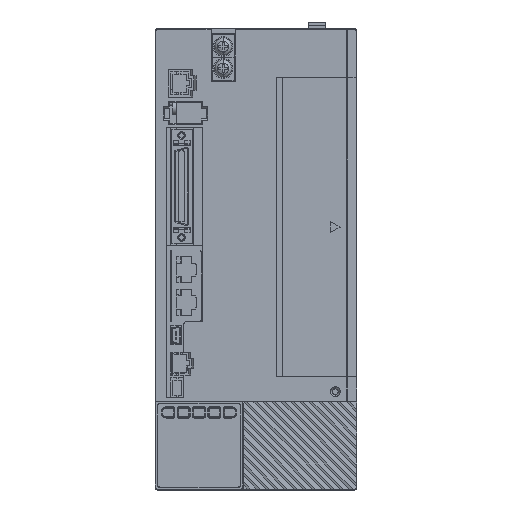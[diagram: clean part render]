
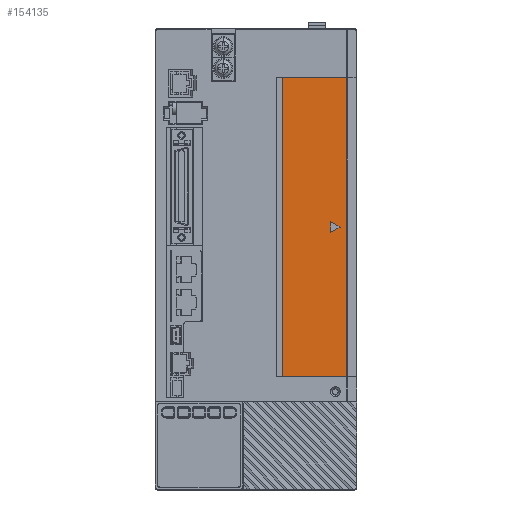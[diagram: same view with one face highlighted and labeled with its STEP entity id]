
A CAD part, top view. The second image highlights one B-rep face of the part: STEP entity #154135.
In plain terms, the highlighted planar face has unit normal (0, 0, 1).
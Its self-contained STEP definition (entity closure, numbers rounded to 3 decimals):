
#57332=DIRECTION('',(0.,-1.,0.));
#57333=VECTOR('',#57332,136.);
#57334=CARTESIAN_POINT('',(12.3,82.6,1.));
#57335=LINE('',#57334,#57333);
#57336=DIRECTION('',(1.,0.,0.));
#57337=VECTOR('',#57336,29.2);
#57338=CARTESIAN_POINT('',(12.3,82.6,1.));
#57339=LINE('',#57338,#57337);
#57340=DIRECTION('',(-1.,0.,0.));
#57341=VECTOR('',#57340,29.2);
#57342=CARTESIAN_POINT('',(41.5,-53.4,1.));
#57343=LINE('',#57342,#57341);
#57344=DIRECTION('',(-0.866,0.5,0.));
#57345=VECTOR('',#57344,5.);
#57346=CARTESIAN_POINT('',(38.35,14.6,1.));
#57347=LINE('',#57346,#57345);
#57348=DIRECTION('',(0.866,0.5,0.));
#57349=VECTOR('',#57348,5.);
#57350=CARTESIAN_POINT('',(34.02,12.1,1.));
#57351=LINE('',#57350,#57349);
#57356=DIRECTION('',(0.,1.,0.));
#57357=VECTOR('',#57356,136.);
#57358=CARTESIAN_POINT('',(41.5,-53.4,1.));
#57359=LINE('',#57358,#57357);
#57466=DIRECTION('',(0.,1.,0.));
#57467=VECTOR('',#57466,5.);
#57468=CARTESIAN_POINT('',(34.02,12.1,1.));
#57469=LINE('',#57468,#57467);
#59286=CARTESIAN_POINT('',(41.5,-53.4,1.));
#59287=CARTESIAN_POINT('',(41.5,82.6,1.));
#59288=VERTEX_POINT('',#59286);
#59289=VERTEX_POINT('',#59287);
#59290=CARTESIAN_POINT('',(38.35,14.6,1.));
#59291=CARTESIAN_POINT('',(34.02,17.1,1.));
#59292=VERTEX_POINT('',#59290);
#59293=VERTEX_POINT('',#59291);
#59294=CARTESIAN_POINT('',(34.02,12.1,1.));
#59295=VERTEX_POINT('',#59294);
#59410=CARTESIAN_POINT('',(12.3,-53.4,1.));
#59412=VERTEX_POINT('',#59410);
#59416=CARTESIAN_POINT('',(12.3,82.6,1.));
#59417=VERTEX_POINT('',#59416);
#154115=CARTESIAN_POINT('',(12.,14.6,1.));
#154116=DIRECTION('',(0.,0.,-1.));
#154117=DIRECTION('',(1.,0.,0.));
#154118=AXIS2_PLACEMENT_3D('',#154115,#154116,#154117);
#154119=PLANE('',#154118);
#154120=ORIENTED_EDGE('',*,*,#154027,.F.);
#154121=ORIENTED_EDGE('',*,*,#77831,.T.);
#154123=ORIENTED_EDGE('',*,*,#154122,.F.);
#154124=ORIENTED_EDGE('',*,*,#154049,.T.);
#154125=EDGE_LOOP('',(#154120,#154121,#154123,#154124));
#154126=FACE_OUTER_BOUND('',#154125,.F.);
#154128=ORIENTED_EDGE('',*,*,#154127,.T.);
#154130=ORIENTED_EDGE('',*,*,#154129,.F.);
#154132=ORIENTED_EDGE('',*,*,#154131,.T.);
#154133=EDGE_LOOP('',(#154128,#154130,#154132));
#154134=FACE_BOUND('',#154133,.F.);
#77831=EDGE_CURVE('',#59417,#59289,#57339,.T.);
#154027=EDGE_CURVE('',#59417,#59412,#57335,.T.);
#154049=EDGE_CURVE('',#59288,#59412,#57343,.T.);
#154122=EDGE_CURVE('',#59288,#59289,#57359,.T.);
#154127=EDGE_CURVE('',#59292,#59293,#57347,.T.);
#154129=EDGE_CURVE('',#59295,#59293,#57469,.T.);
#154131=EDGE_CURVE('',#59295,#59292,#57351,.T.);
#154135=ADVANCED_FACE('',(#154126,#154134),#154119,.F.);
